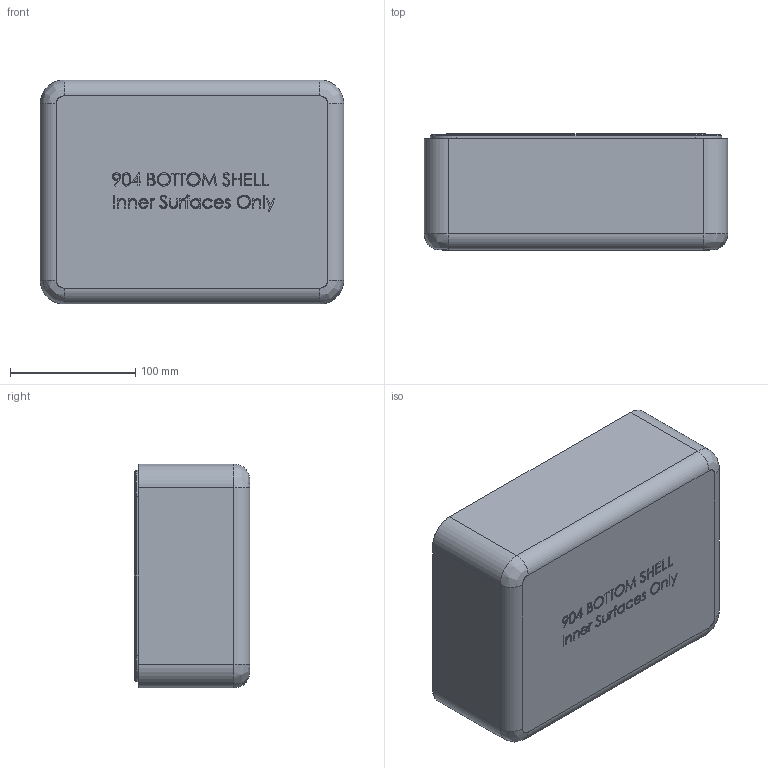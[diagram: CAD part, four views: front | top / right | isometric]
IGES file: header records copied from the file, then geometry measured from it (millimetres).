
Start section: SolidWorks IGES file using analytic representation for surfaces
Global section: file name: C:\Users\bcoley\Desktop\Cases from server\Cases\904\NDA Required\NANUK_904_Bottom_INNER SURFS_IGES.IGS; native system: SolidWorks 2012; preprocessor: SolidWorks 2012; author: bcoley; date: 130313.215610; units: inch
Bounding box: 242.75 x 92.48 x 179 mm (x, y, z)
Surface area: 216182.1 mm2 (no closed solid volume)
Topology: 0 solids, 0 shells, 856 faces, 11187 edges, 11179 vertices
Faces by surface type: bspline 682, revolution 174
